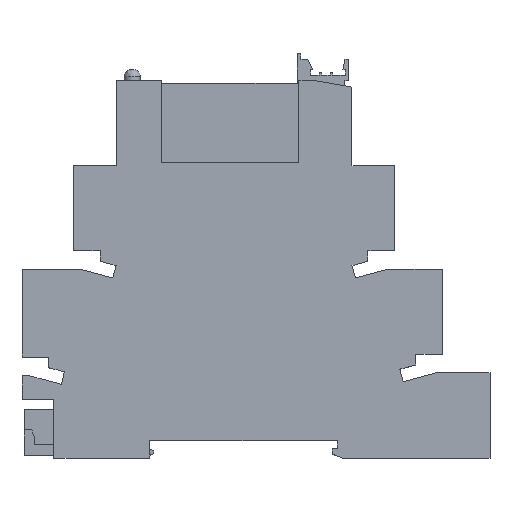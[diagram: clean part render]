
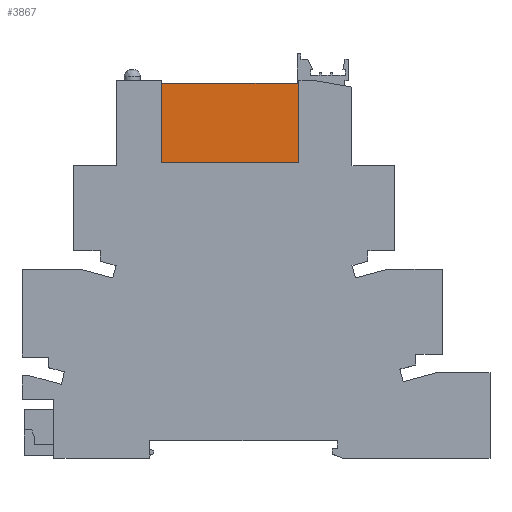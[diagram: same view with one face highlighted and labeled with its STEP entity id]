
A CAD part, top view. The second image highlights one B-rep face of the part: STEP entity #3867.
In plain terms, the highlighted planar face has unit normal (0, 0, 1).
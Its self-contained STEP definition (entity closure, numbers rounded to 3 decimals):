
#786=DIRECTION('',(1.,0.001,0.));
#787=VECTOR('',#786,1.5);
#788=CARTESIAN_POINT('',(8.,35.002,2.45));
#789=LINE('',#788,#787);
#1306=DIRECTION('',(0.,1.,0.));
#1307=VECTOR('',#1306,14.903);
#1308=CARTESIAN_POINT('',(9.5,20.1,2.45));
#1309=LINE('',#1308,#1307);
#1310=DIRECTION('',(1.,0.,0.));
#1311=VECTOR('',#1310,28.15);
#1312=CARTESIAN_POINT('',(-18.65,20.1,2.45));
#1313=LINE('',#1312,#1311);
#1314=DIRECTION('',(0.,-1.,0.));
#1315=VECTOR('',#1314,14.9);
#1316=CARTESIAN_POINT('',(-18.65,35.,2.45));
#1317=LINE('',#1316,#1315);
#1318=DIRECTION('',(-1.,0.,0.));
#1319=VECTOR('',#1318,26.65);
#1320=CARTESIAN_POINT('',(8.,35.002,2.45));
#1321=LINE('',#1320,#1319);
#2072=CARTESIAN_POINT('',(-18.65,35.,2.45));
#2073=CARTESIAN_POINT('',(-18.65,20.1,2.45));
#2074=VERTEX_POINT('',#2072);
#2075=VERTEX_POINT('',#2073);
#2076=CARTESIAN_POINT('',(9.5,20.1,2.45));
#2077=VERTEX_POINT('',#2076);
#2079=CARTESIAN_POINT('',(8.,35.002,2.45));
#2081=VERTEX_POINT('',#2079);
#2084=CARTESIAN_POINT('',(9.5,35.003,2.45));
#2085=VERTEX_POINT('',#2084);
#3852=CARTESIAN_POINT('',(0.,0.,2.45));
#3853=DIRECTION('',(0.,0.,1.));
#3854=DIRECTION('',(1.,0.,0.));
#3855=AXIS2_PLACEMENT_3D('',#3852,#3853,#3854);
#3856=PLANE('',#3855);
#3857=ORIENTED_EDGE('',*,*,#2966,.T.);
#3859=ORIENTED_EDGE('',*,*,#3858,.F.);
#3861=ORIENTED_EDGE('',*,*,#3860,.F.);
#3863=ORIENTED_EDGE('',*,*,#3862,.F.);
#3864=ORIENTED_EDGE('',*,*,#3012,.F.);
#3865=EDGE_LOOP('',(#3857,#3859,#3861,#3863,#3864));
#3866=FACE_OUTER_BOUND('',#3865,.F.);
#3867=ADVANCED_FACE('',(#3866),#3856,.T.);
#2966=EDGE_CURVE('',#2081,#2085,#789,.T.);
#3012=EDGE_CURVE('',#2081,#2074,#1321,.T.);
#3858=EDGE_CURVE('',#2077,#2085,#1309,.T.);
#3860=EDGE_CURVE('',#2075,#2077,#1313,.T.);
#3862=EDGE_CURVE('',#2074,#2075,#1317,.T.);
